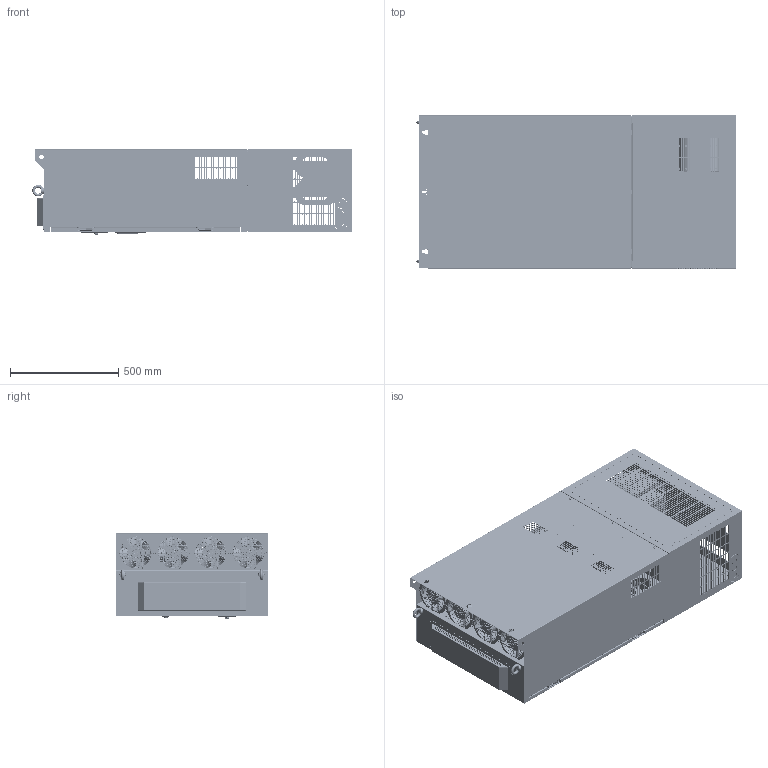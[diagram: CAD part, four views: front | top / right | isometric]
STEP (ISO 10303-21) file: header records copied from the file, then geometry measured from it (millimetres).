
FILE_DESCRIPTION((''),'2;1');
FILE_NAME('220-315KW_3D_ASM_181_ASM_1_ASM','2022-07-18T',('Administrator'),(''),'PRO/ENGINEER BY PARAMETRIC TECHNOLOGY CORPORATION, 2010280','PRO/ENGINEER BY PARAMETRIC TECHNOLOGY CORPORATION, 2010280','');
FILE_SCHEMA(('AUTOMOTIVE_DESIGN_CC2 { 1 2 10303 214 -1 1 5 2 }'));
Products named in the file (121): MANIFOLD_SOLID_BREP_33619_1; MANIFOLD_SOLID_BREP_33876_1; MANIFOLD_SOLID_BREP_34904_1; MANIFOLD_SOLID_BREP_36446_1; MANIFOLD_SOLID_BREP_36703_1; MANIFOLD_SOLID_BREP_36960_1; MANIFOLD_SOLID_BREP_37217_1; 5G3WZ3F001_94_ASM_1_ASM; MANIFOLD_SOLID_BREP_46997_1; 5G3WZ3F003_64_ASM_1_ASM; MANIFOLD_SOLID_BREP_72444_1; 5G3WZ3F005_112_ASM_1_ASM; 5G3WZ2F002_ASM_22_ASM_1_ASM; 5G3WZ2F001_ASM_40_ASM_1_ASM; MANIFOLD_SOLID_BREP_151479_1; MANIFOLD_SOLID_BREP_151681_1; MANIFOLD_SOLID_BREP_151883_1; MANIFOLD_SOLID_BREP_152085_1; MANIFOLD_SOLID_BREP_152287_1; MANIFOLD_SOLID_BREP_152489_1; MANIFOLD_SOLID_BREP_152691_1; MANIFOLD_SOLID_BREP_152893_1; MANIFOLD_SOLID_BREP_153095_1; _5G3WZ3F014_62_1; 5G3WZ3F014_62_ASM_1_ASM; MANIFOLD_SOLID_BREP_155996_1; MANIFOLD_SOLID_BREP_156198_1; MANIFOLD_SOLID_BREP_156400_1; MANIFOLD_SOLID_BREP_156602_1; MANIFOLD_SOLID_BREP_156804_1; MANIFOLD_SOLID_BREP_157006_1; MANIFOLD_SOLID_BREP_157208_1; MANIFOLD_SOLID_BREP_157410_1; MANIFOLD_SOLID_BREP_157612_1; _5G3WZ3F015_54_1; 5G3WZ3F015_54_ASM_1_ASM; 5G3WZ3F026_70_1; 5G3WZ3F027_74_1; 5G3WZ3F028_34_1; 5G3WZ3F029_74_1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
Assembly tree (147 placements, depth 6):
  220-315KW_3D_ASM_181_ASM_1_ASM
    5G3WZ1F001_ASM_91_ASM_1_ASM
      5G3WZ2F001_ASM_40_ASM_1_ASM
        5G3WZ3F001_94_ASM_1_ASM
          MANIFOLD_SOLID_BREP_33619_1
          MANIFOLD_SOLID_BREP_33876_1
          MANIFOLD_SOLID_BREP_34904_1
          MANIFOLD_SOLID_BREP_36446_1
          MANIFOLD_SOLID_BREP_36703_1
          MANIFOLD_SOLID_BREP_36960_1
          MANIFOLD_SOLID_BREP_37217_1
        5G3WZ3F003_64_ASM_1_ASM
          MANIFOLD_SOLID_BREP_46997_1
        5G3WZ2F002_ASM_22_ASM_1_ASM
          5G3WZ3F005_112_ASM_1_ASM
            MANIFOLD_SOLID_BREP_72444_1
      5G3WZ3F014_62_ASM_1_ASM
        MANIFOLD_SOLID_BREP_151479_1
        MANIFOLD_SOLID_BREP_151681_1
        MANIFOLD_SOLID_BREP_151883_1
        MANIFOLD_SOLID_BREP_152085_1
        MANIFOLD_SOLID_BREP_152287_1
        MANIFOLD_SOLID_BREP_152489_1
        MANIFOLD_SOLID_BREP_152691_1
        MANIFOLD_SOLID_BREP_152893_1
        MANIFOLD_SOLID_BREP_153095_1
        _5G3WZ3F014_62_1
      5G3WZ3F015_54_ASM_1_ASM
        MANIFOLD_SOLID_BREP_155996_1
        MANIFOLD_SOLID_BREP_156198_1
        MANIFOLD_SOLID_BREP_156400_1
        MANIFOLD_SOLID_BREP_156602_1
        MANIFOLD_SOLID_BREP_156804_1
        MANIFOLD_SOLID_BREP_157006_1
        MANIFOLD_SOLID_BREP_157208_1
        MANIFOLD_SOLID_BREP_157410_1
        MANIFOLD_SOLID_BREP_157612_1
        _5G3WZ3F015_54_1
      5G3WZ3F026_70_1
      5G3WZ3F027_74_1
      5G3WZ3F028_34_1
      5G3WZ2F003_ASM_41_ASM_1_ASM
        5G3WZ3F029_74_1
        5G3WZ3F031_43_ASM_1_ASM  x2
          MANIFOLD_SOLID_BREP_232632_1
          MANIFOLD_SOLID_BREP_232889_1
          MANIFOLD_SOLID_BREP_233146_1
          _5G3WZ3F031_43_1
        5G3WZ3F032_14_1
        YDS_A1_M4-16_18_1  x2
        D4X8_GB12618_1_30_1  x2
        _5G3WZ2F003_ASM_41_1
      5G3WZ2F004_ASM_45_ASM_1_ASM
        5G3WZ3F030_80_ASM_1_ASM
          MANIFOLD_SOLID_BREP_242757_1
          MANIFOLD_SOLID_BREP_243926_1
          MANIFOLD_SOLID_BREP_245095_1
        5G3WZ3F031_43_ASM_1_ASM  x2
          MANIFOLD_SOLID_BREP_232632_1
          MANIFOLD_SOLID_BREP_232889_1
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Bounding box: 1472.5 x 705 x 392 mm (x, y, z)
Volume: 33217853.1 mm3; surface area: 28645131.8 mm2
Topology: 165 solids, 247 shells, 12719 faces, 51371 edges, 43490 vertices
Faces by surface type: plane 6782, cylinder 4606, extrusion 560, torus 396, bspline 248, cone 81, sphere 44, revolution 2
Entity records: 560543 total; most frequent: CARTESIAN_POINT 105832, DIRECTION 73205, ORIENTED_EDGE 62758, EDGE_CURVE 32329, VECTOR 30911, LINE 30768, PRESENTATION_STYLE_ASSIGNMENT 28676, STYLED_ITEM 28676
